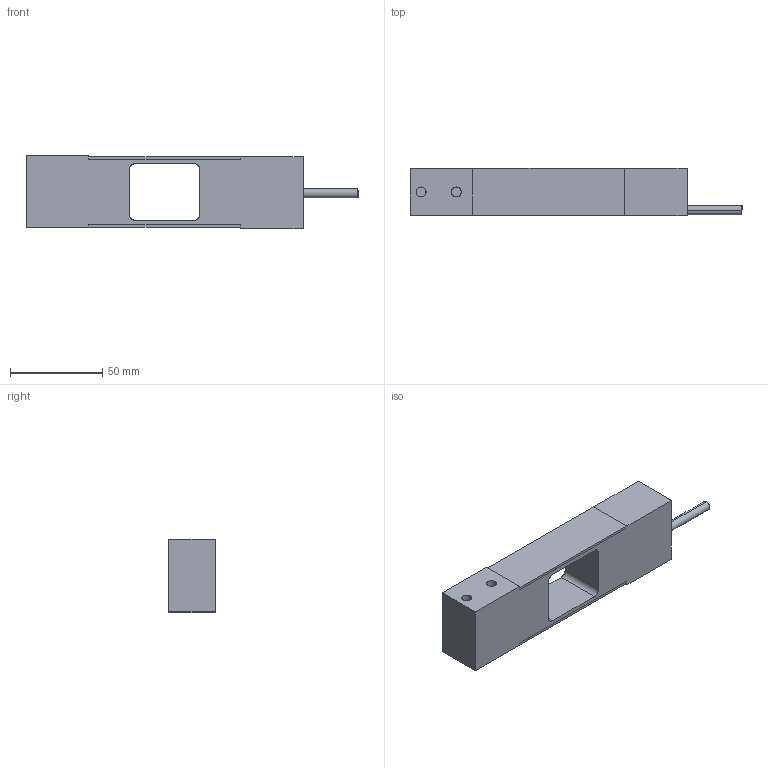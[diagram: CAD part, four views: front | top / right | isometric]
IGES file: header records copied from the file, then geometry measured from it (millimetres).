
Start section: SolidWorks IGES file using analytic representation for surfaces
Global section: file name: C:\Users\nasc01\Desktop\Assemblies for Conversion\Load_Sensor_HISPA42_50kg-200kg\Load_Sensor_HISPA42_50kg-200kg_3D\Load_Sensor_HISPA42_50kg-200kg.IGS; native system: SolidWorks 2013; preprocessor: SolidWorks 2013; author: nasc01; date: 141009.090639; units: millimetre
Bounding box: 179.71 x 25.42 x 40 mm (x, y, z)
Surface area: 23582.4 mm2 (no closed solid volume)
Topology: 0 solids, 0 shells, 49 faces, 600 edges, 600 vertices
Faces by surface type: bspline 35, revolution 14
